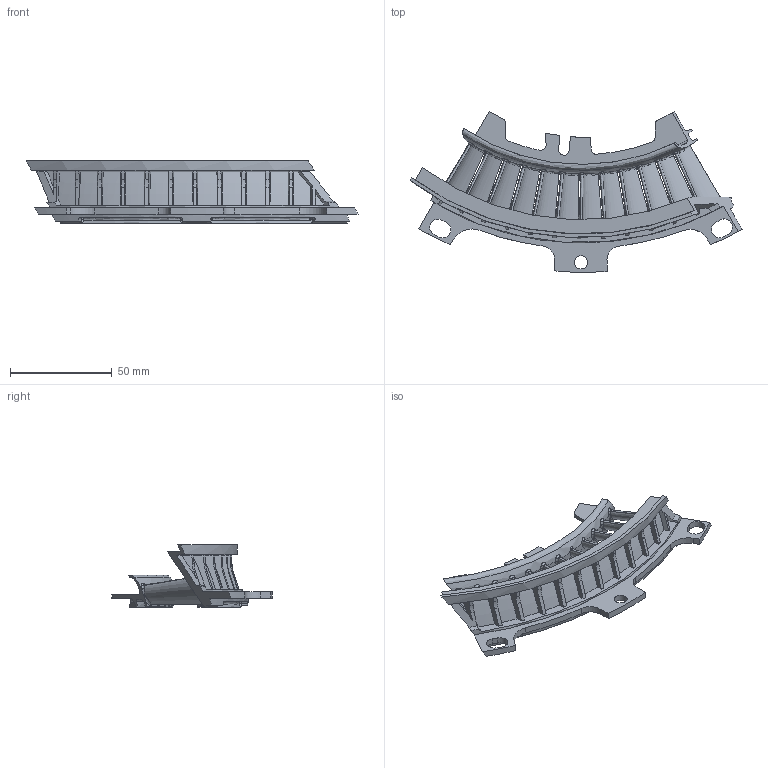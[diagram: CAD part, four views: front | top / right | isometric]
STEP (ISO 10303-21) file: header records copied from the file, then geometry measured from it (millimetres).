
FILE_DESCRIPTION(('STEP AP214'),'1');
FILE_NAME('Vane.stp','2016-03-07T17:35:46',(' '),(' '),'Spatial InterOp 3D',' ',' ');
FILE_SCHEMA(('automotive_design'));
Length unit declared in the file: millimetre
Products named in the file (1): 1
Bounding box: 162.82 x 78.83 x 30.8 mm (x, y, z)
Volume: 30078.6 mm3; surface area: 33378.2 mm2
Topology: 1 solids, 1 shells, 422 faces, 1262 edges, 816 vertices
Faces by surface type: bspline 422
Entity records: 109761 total; most frequent: CARTESIAN_POINT 101170, ORIENTED_EDGE 2490, EDGE_CURVE 1245, VERTEX_POINT 816, B_SPLINE_CURVE_WITH_KNOTS 798, DIRECTION 746, EDGE_LOOP 441, ADVANCED_FACE 422
